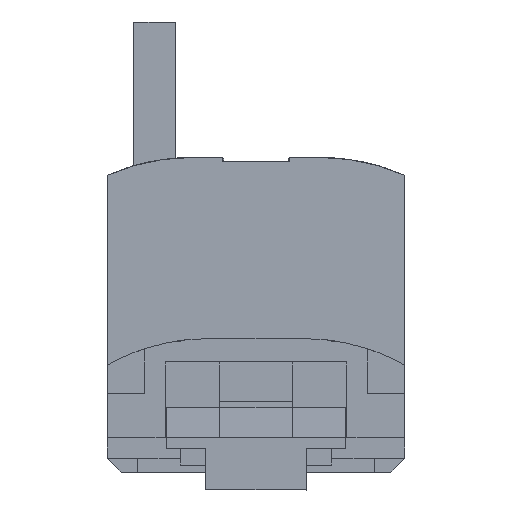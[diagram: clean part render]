
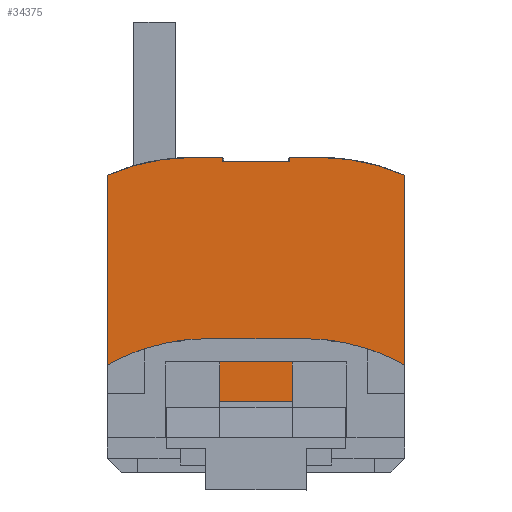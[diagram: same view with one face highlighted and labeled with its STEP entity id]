
A CAD part, front view. The second image highlights one B-rep face of the part: STEP entity #34375.
In plain terms, the highlighted planar face has unit normal (0, -1, 0) as drawn and (1, 0, 0) by its records, which use the part's own axes.
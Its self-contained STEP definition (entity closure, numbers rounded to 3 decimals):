
#868=CIRCLE('',#35739,15.);
#869=CIRCLE('',#35756,15.);
#4091=ORIENTED_EDGE('',*,*,#9481,.T.);
#4092=ORIENTED_EDGE('',*,*,#9464,.F.);
#4093=ORIENTED_EDGE('',*,*,#9478,.T.);
#4094=ORIENTED_EDGE('',*,*,#9469,.F.);
#4095=ORIENTED_EDGE('',*,*,#10279,.T.);
#4096=ORIENTED_EDGE('',*,*,#9475,.T.);
#4097=ORIENTED_EDGE('',*,*,#9496,.T.);
#4098=ORIENTED_EDGE('',*,*,#9498,.F.);
#4099=ORIENTED_EDGE('',*,*,#10282,.F.);
#4100=ORIENTED_EDGE('',*,*,#9591,.T.);
#4101=ORIENTED_EDGE('',*,*,#10398,.F.);
#4102=ORIENTED_EDGE('',*,*,#10350,.T.);
#4103=ORIENTED_EDGE('',*,*,#10399,.T.);
#4104=ORIENTED_EDGE('',*,*,#9344,.F.);
#4105=ORIENTED_EDGE('',*,*,#10264,.F.);
#4106=ORIENTED_EDGE('',*,*,#9433,.T.);
#4107=ORIENTED_EDGE('',*,*,#9454,.F.);
#4108=ORIENTED_EDGE('',*,*,#9452,.F.);
#4109=ORIENTED_EDGE('',*,*,#10269,.T.);
#4110=ORIENTED_EDGE('',*,*,#10270,.T.);
#4111=ORIENTED_EDGE('',*,*,#9437,.F.);
#4112=ORIENTED_EDGE('',*,*,#10272,.T.);
#9344=EDGE_CURVE('',#13036,#13037,#15779,.T.);
#9433=EDGE_CURVE('',#13110,#13108,#15860,.T.);
#9437=EDGE_CURVE('',#13112,#13114,#15864,.T.);
#9452=EDGE_CURVE('',#13128,#13129,#15876,.T.);
#9454=EDGE_CURVE('',#13129,#13108,#15878,.T.);
#9464=EDGE_CURVE('',#13136,#13138,#15887,.T.);
#9469=EDGE_CURVE('',#13142,#13143,#15892,.T.);
#9475=EDGE_CURVE('',#13148,#13146,#15895,.T.);
#9478=EDGE_CURVE('',#13136,#13143,#15898,.T.);
#9481=EDGE_CURVE('',#13151,#13138,#15901,.T.);
#9496=EDGE_CURVE('',#13146,#13159,#15914,.T.);
#9498=EDGE_CURVE('',#13160,#13159,#15916,.T.);
#9591=EDGE_CURVE('',#13233,#13232,#15985,.T.);
#10264=EDGE_CURVE('',#13110,#13036,#868,.T.);
#10269=EDGE_CURVE('',#13128,#13678,#16451,.T.);
#10270=EDGE_CURVE('',#13678,#13114,#16452,.T.);
#10272=EDGE_CURVE('',#13112,#13151,#16454,.T.);
#10279=EDGE_CURVE('',#13142,#13148,#16458,.T.);
#10282=EDGE_CURVE('',#13233,#13160,#869,.T.);
#10350=EDGE_CURVE('',#13731,#13730,#16511,.T.);
#10398=EDGE_CURVE('',#13731,#13232,#16551,.T.);
#10399=EDGE_CURVE('',#13730,#13037,#16552,.T.);
#13036=VERTEX_POINT('',#44152);
#13037=VERTEX_POINT('',#44154);
#13108=VERTEX_POINT('',#44332);
#13110=VERTEX_POINT('',#44335);
#13112=VERTEX_POINT('',#44341);
#13114=VERTEX_POINT('',#44344);
#13128=VERTEX_POINT('',#44570);
#13129=VERTEX_POINT('',#44572);
#13136=VERTEX_POINT('',#44740);
#13138=VERTEX_POINT('',#44743);
#13142=VERTEX_POINT('',#44752);
#13143=VERTEX_POINT('',#44754);
#13146=VERTEX_POINT('',#44764);
#13148=VERTEX_POINT('',#44767);
#13151=VERTEX_POINT('',#44778);
#13159=VERTEX_POINT('',#44802);
#13160=VERTEX_POINT('',#44806);
#13232=VERTEX_POINT('',#46480);
#13233=VERTEX_POINT('',#46482);
#13678=VERTEX_POINT('',#55638);
#13730=VERTEX_POINT('',#56348);
#13731=VERTEX_POINT('',#56350);
#15779=LINE('',#44153,#18745);
#15860=LINE('',#44334,#18826);
#15864=LINE('',#44343,#18830);
#15876=LINE('',#44571,#18842);
#15878=LINE('',#44575,#18844);
#15887=LINE('',#44742,#18853);
#15892=LINE('',#44753,#18858);
#15895=LINE('',#44766,#18861);
#15898=LINE('',#44772,#18864);
#15901=LINE('',#44777,#18867);
#15914=LINE('',#44803,#18880);
#15916=LINE('',#44807,#18882);
#15985=LINE('',#46481,#18951);
#16451=LINE('',#55639,#19417);
#16452=LINE('',#55641,#19418);
#16454=LINE('',#55645,#19420);
#16458=LINE('',#55771,#19424);
#16511=LINE('',#56349,#19477);
#16551=LINE('',#56443,#19517);
#16552=LINE('',#56444,#19518);
#18745=VECTOR('',#37697,1000.);
#18826=VECTOR('',#37832,1000.);
#18830=VECTOR('',#37838,1000.);
#18842=VECTOR('',#37858,1000.);
#18844=VECTOR('',#37862,1000.);
#18853=VECTOR('',#37875,1000.);
#18858=VECTOR('',#37882,1000.);
#18861=VECTOR('',#37895,1000.);
#18864=VECTOR('',#37900,1000.);
#18867=VECTOR('',#37905,1000.);
#18880=VECTOR('',#37926,1000.);
#18882=VECTOR('',#37930,1000.);
#18951=VECTOR('',#38059,1000.);
#19417=VECTOR('',#39125,1000.);
#19418=VECTOR('',#39128,1000.);
#19420=VECTOR('',#39134,1000.);
#19424=VECTOR('',#39148,1000.);
#19477=VECTOR('',#39267,1000.);
#19517=VECTOR('',#39361,1000.);
#19518=VECTOR('',#39362,1000.);
#21724=EDGE_LOOP('',(#4091,#4092,#4093,#4094,#4095,#4096,#4097,#4098,#4099,
#4100,#4101,#4102,#4103,#4104,#4105,#4106,#4107,#4108,#4109,#4110,#4111,
#4112));
#23014=FACE_BOUND('',#21724,.T.);
#24242=PLANE('',#35811);
#34375=ADVANCED_FACE('',(#23014),#24242,.F.);
#35739=AXIS2_PLACEMENT_3D('',#55628,#39111,#39112);
#35756=AXIS2_PLACEMENT_3D('',#55778,#39159,#39160);
#35811=AXIS2_PLACEMENT_3D('',#56442,#39359,#39360);
#37697=DIRECTION('',(0.,1.,0.));
#37832=DIRECTION('',(0.,0.,-1.));
#37838=DIRECTION('',(0.,1.,0.));
#37858=DIRECTION('',(0.,0.,-1.));
#37862=DIRECTION('',(0.,-1.,0.));
#37875=DIRECTION('',(0.,0.,-1.));
#37882=DIRECTION('',(0.,0.,-1.));
#37895=DIRECTION('',(0.,0.,-1.));
#37900=DIRECTION('',(0.,-1.,0.));
#37905=DIRECTION('',(0.,1.,0.));
#37926=DIRECTION('',(0.,1.,0.));
#37930=DIRECTION('',(0.,0.,-1.));
#38059=DIRECTION('',(0.,-1.,0.));
#39111=DIRECTION('',(-1.,0.,0.));
#39112=DIRECTION('',(0.,0.974,-0.225));
#39125=DIRECTION('',(0.,1.,0.));
#39128=DIRECTION('',(0.,0.,-1.));
#39134=DIRECTION('',(0.,0.,-1.));
#39148=DIRECTION('',(0.,1.,0.));
#39159=DIRECTION('',(-1.,0.,0.));
#39160=DIRECTION('',(0.,-0.974,0.225));
#39267=DIRECTION('',(0.,-1.,0.));
#39359=DIRECTION('',(-1.,0.,0.));
#39360=DIRECTION('',(0.,-1.,0.));
#39361=DIRECTION('',(0.,0.,1.));
#39362=DIRECTION('',(0.,0.,1.));
#44152=CARTESIAN_POINT('',(24.9,6.086,17.7));
#44153=CARTESIAN_POINT('',(24.9,40.113,17.7));
#44154=CARTESIAN_POINT('',(24.9,8.346,17.7));
#44332=CARTESIAN_POINT('',(24.9,0.,0.55));
#44334=CARTESIAN_POINT('',(24.9,0.,8.833));
#44335=CARTESIAN_POINT('',(24.9,0.,16.41));
#44341=CARTESIAN_POINT('',(24.9,2.1,1.));
#44343=CARTESIAN_POINT('',(24.9,2.3,1.));
#44344=CARTESIAN_POINT('',(24.9,3.4,1.));
#44570=CARTESIAN_POINT('',(24.9,0.8,2.1));
#44571=CARTESIAN_POINT('',(24.9,0.8,8.833));
#44572=CARTESIAN_POINT('',(24.9,0.8,0.55));
#44575=CARTESIAN_POINT('',(24.9,13.094,0.55));
#44740=CARTESIAN_POINT('',(24.9,19.5,1.));
#44742=CARTESIAN_POINT('',(24.9,19.5,8.833));
#44743=CARTESIAN_POINT('',(24.9,19.5,0.));
#44752=CARTESIAN_POINT('',(24.9,18.2,2.1));
#44753=CARTESIAN_POINT('',(24.9,18.2,8.833));
#44754=CARTESIAN_POINT('',(24.9,18.2,1.));
#44764=CARTESIAN_POINT('',(24.9,20.8,0.55));
#44766=CARTESIAN_POINT('',(24.9,20.8,8.833));
#44767=CARTESIAN_POINT('',(24.9,20.8,2.1));
#44772=CARTESIAN_POINT('',(24.9,13.094,1.));
#44777=CARTESIAN_POINT('',(24.9,13.094,0.));
#44778=CARTESIAN_POINT('',(24.9,2.1,0.));
#44802=CARTESIAN_POINT('',(24.9,21.6,0.55));
#44803=CARTESIAN_POINT('',(24.9,13.094,0.55));
#44806=CARTESIAN_POINT('',(24.9,21.6,16.41));
#44807=CARTESIAN_POINT('',(24.9,21.6,8.833));
#46480=CARTESIAN_POINT('',(24.9,13.254,17.7));
#46481=CARTESIAN_POINT('',(24.9,40.113,17.7));
#46482=CARTESIAN_POINT('',(24.9,15.514,17.7));
#55628=CARTESIAN_POINT('',(24.9,6.086,2.7));
#55638=CARTESIAN_POINT('',(24.9,3.4,2.1));
#55639=CARTESIAN_POINT('',(24.9,119.192,2.1));
#55641=CARTESIAN_POINT('',(24.9,3.4,-12.026));
#55645=CARTESIAN_POINT('',(24.9,2.1,8.833));
#55771=CARTESIAN_POINT('',(24.9,19.454,2.1));
#55778=CARTESIAN_POINT('',(24.9,15.514,2.7));
#56348=CARTESIAN_POINT('',(24.9,8.346,17.4));
#56349=CARTESIAN_POINT('',(24.9,40.078,17.4));
#56350=CARTESIAN_POINT('',(24.9,13.254,17.4));
#56442=CARTESIAN_POINT('',(24.9,13.094,8.833));
#56443=CARTESIAN_POINT('',(24.9,13.254,2.982));
#56444=CARTESIAN_POINT('',(24.9,8.346,17.55));
